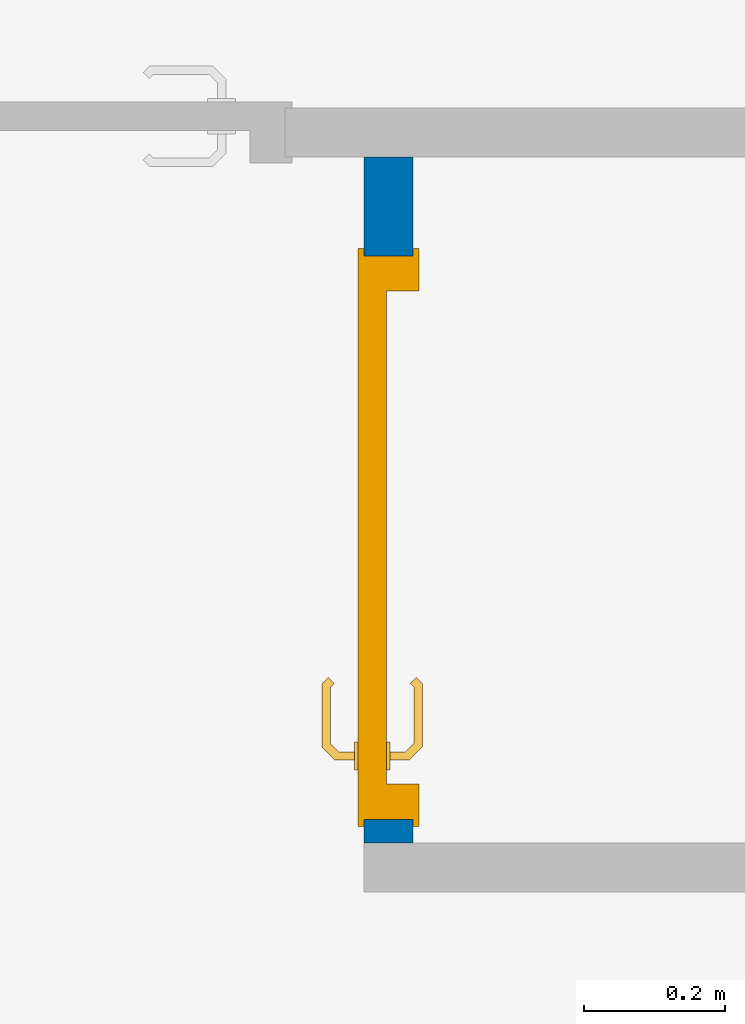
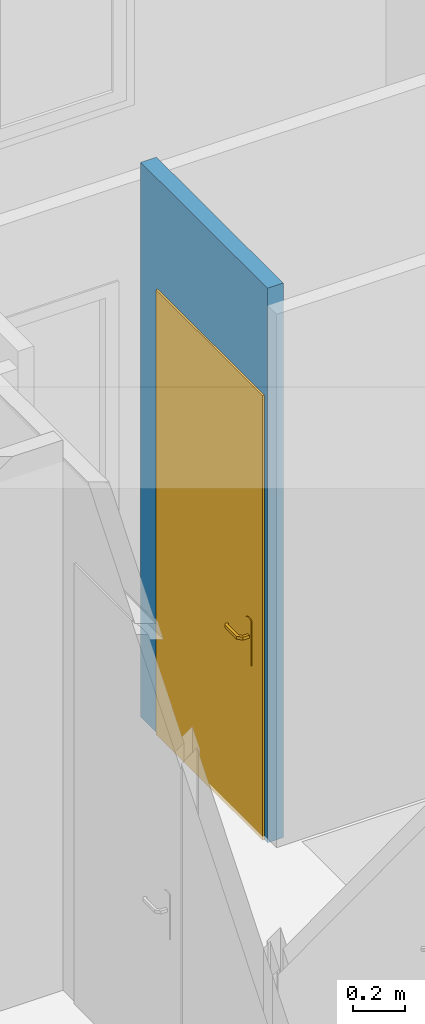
# One storey, part 32 of 50: 1 door, 1 wall, 1 opening.
"""IFC2X3 building model written with IfcOpenShell, lengths in metres."""

from ifc_helpers import new_model, entity, si_unit, converted_unit, derived_unit, direction, frame, frame_2d, origin, place, context, subcontext, project, spatial, rectangle, extrude, faceted_brep, source, transform, mapped, material, material_list, layer, layer_set, layer_usage, type_object, type_shapes, element, fill, save


model = new_model("IFC2X3")

# Units and contexts
model_context = context("Model", 3, precision=1e-05, world=origin(), true_north=direction((6.12303176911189e-17, 1.0)))
context_of_model = context(None, 3, precision=1e-05, world=origin(), true_north=direction((6.12303176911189e-17, 1.0)))
body_context = subcontext(model_context, "Body", "Model", "MODEL_VIEW")
ifc_project = project(units=[si_unit("LENGTHUNIT", "METRE"), si_unit("AREAUNIT", "SQUARE_METRE"), si_unit("VOLUMEUNIT", "CUBIC_METRE"), converted_unit("PLANEANGLEUNIT", "DEGREE", entity("IfcRatioMeasure", 0.0174532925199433), si_unit("PLANEANGLEUNIT", "RADIAN"), dimensions=[0, 0, 0, 0, 0, 0, 0]), si_unit("MASSUNIT", "GRAM", prefix="KILO"), si_unit("TIMEUNIT", "SECOND"), si_unit("FREQUENCYUNIT", "HERTZ"), si_unit("THERMODYNAMICTEMPERATUREUNIT", "DEGREE_CELSIUS"), derived_unit("THERMALTRANSMITTANCEUNIT", [(si_unit("MASSUNIT", "GRAM", prefix="KILO"), 1), (si_unit("THERMODYNAMICTEMPERATUREUNIT", "KELVIN"), -1), (si_unit("TIMEUNIT", "SECOND"), -3)]), derived_unit("VOLUMETRICFLOWRATEUNIT", [(si_unit("LENGTHUNIT", "METRE"), 3), (si_unit("TIMEUNIT", "SECOND"), -1)]), si_unit("ELECTRICCURRENTUNIT", "AMPERE"), si_unit("ELECTRICVOLTAGEUNIT", "VOLT"), si_unit("POWERUNIT", "WATT"), si_unit("FORCEUNIT", "NEWTON", prefix="KILO"), si_unit("ILLUMINANCEUNIT", "LUX"), si_unit("LUMINOUSFLUXUNIT", "LUMEN"), si_unit("LUMINOUSINTENSITYUNIT", "CANDELA"), si_unit("PRESSUREUNIT", "PASCAL")], contexts=[model_context, context_of_model])

# Site, building, storey
site_placement = place(None, origin())
site = spatial("IfcSite", under=ifc_project, at=site_placement, Name="Surface", CompositionType="ELEMENT")
building_placement = place(site_placement, origin())
building = spatial("IfcBuilding", under=site, at=building_placement, CompositionType="ELEMENT")
storey_placement = place(building_placement, frame((0.0, 0.0, 2.82)))
storey = spatial("IfcBuildingStorey", under=building, at=storey_placement, Name="ETAGE", CompositionType="ELEMENT", Elevation=2.82)

# Wall, opening, door
ifc_material_1 = material(Name="Peinture - Blanc")
ifc_layer = layer(ifc_material_1, 0.07)
ifc_layer_set = layer_set([ifc_layer], Name="Mur de base:Int.  Platre 70 mm en blanc")
ifc_layer_usage = layer_usage(ifc_layer_set, "AXIS2", "POSITIVE", -0.035)
wall_type = type_object("IfcWallType", Name="Mur de base:Int.  Platre 70 mm en blanc", PredefinedType="STANDARD", material=ifc_layer_set)
wall_placement = place(storey_placement, frame((80.9843531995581, 88.5842045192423, 0.0), z_axis=(0.0, 0.0, 1.0), x_axis=(0.0, 1.0, 0.0)))
wall = element("IfcWallStandardCase", 1, at=wall_placement, inside=storey, type_object=wall_type, material=ifc_layer_usage, Name="Mur de base:Int.  Platre 70 mm en blanc", ObjectType="Mur de base:Int.  Platre 70 mm en blanc", context=body_context, shape_type="SweptSolid", body=[
    extrude(rectangle(XDim=0.973319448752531, YDim=0.0699999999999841, at=frame_2d((0.486659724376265, 0.0), x_axis=(-1.0, 0.0))), origin(), (0.0, 0.0, 1.0), 2.6),
])
opening_placement = place(wall_placement, frame((0.0333194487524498, -0.035, 0.0)))
opening = element("IfcOpeningElement", 2, at=opening_placement, cuts=wall, Name="FR_Simple (R):73 x 204 - (70):1", ObjectType="Opening", context=body_context, shape_type="SweptSolid", body=[
    extrude(rectangle(XDim=2.075, YDim=0.799999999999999, at=frame_2d((1.0375, 0.4), x_axis=(1.0, 0.0))), frame((0.0, 0.0, 0.0), z_axis=(0.0, 1.0, 0.0), x_axis=(0.0, 0.0, 1.0)), (0.0, 0.0, 1.0), 0.07),
])
ifc_material_2 = material(Name="Poignée Porte")
ifc_material_3 = material(Name="Dormants Portes")
ifc_material_4 = material(Name="Panneaux Portes")
ifc_material_list_1 = material_list([ifc_material_2, ifc_material_3, ifc_material_4])
ifc_material_list_2 = material_list([ifc_material_2, ifc_material_3, ifc_material_4])
door_style = type_object("IfcDoorStyle", Name="73 x 204 - (70)", ConstructionType="NOTDEFINED", OperationType="SINGLE_SWING_RIGHT", ParameterTakesPrecedence=False, Sizeable=False, material=ifc_material_list_2)
shared_shape = source(origin(), body_context, "Body", "Brep", [
    faceted_brep([(0.710000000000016, -0.0130000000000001, 0.764641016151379), (0.720352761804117, -0.0130000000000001, 0.766003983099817), (0.730000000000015, -0.0130000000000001, 0.770000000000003), (0.730000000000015, -0.0130000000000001, 0.980000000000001), (0.720352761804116, -0.0130000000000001, 0.983996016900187), (0.710000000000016, -0.0130000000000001, 0.985358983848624), (0.699647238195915, -0.0130000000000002, 0.983996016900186), (0.690000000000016, -0.0130000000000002, 0.980000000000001), (0.690000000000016, -0.0130000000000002, 0.770000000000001), (0.699647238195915, -0.0130000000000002, 0.766003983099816), (0.730000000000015, -0.00800000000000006, 0.980000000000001), (0.730000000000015, -0.00800000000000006, 0.770000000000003), (0.720352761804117, -0.00800000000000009, 0.766003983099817), (0.710000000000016, -0.00800000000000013, 0.764641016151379), (0.699647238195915, -0.00800000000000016, 0.766003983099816), (0.690000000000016, -0.00800000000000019, 0.770000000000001), (0.690000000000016, -0.00800000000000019, 0.980000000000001), (0.699647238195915, -0.00800000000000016, 0.983996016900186), (0.710000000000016, -0.00800000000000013, 0.985358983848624), (0.720352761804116, -0.00800000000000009, 0.983996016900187)], [[[0, 1, 2, 3, 4, 5, 6, 7, 8, 9]], [[10, 11, 12, 13, 14, 15, 16, 17, 18, 19]], [[1, 12, 11, 2]], [[0, 13, 12, 1]], [[9, 14, 13, 0]], [[9, 8, 15, 14]], [[15, 8, 7, 16]], [[6, 17, 16, 7]], [[5, 18, 17, 6]], [[4, 19, 18, 5]], [[4, 3, 10, 19]], [[10, 3, 2, 11]]]),
    faceted_brep([(0.730000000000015, 0.0319999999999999, 0.770000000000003), (0.730000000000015, 0.0319999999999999, 0.980000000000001), (0.720352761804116, 0.0319999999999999, 0.983996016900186), (0.710000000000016, 0.0319999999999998, 0.985358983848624), (0.699647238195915, 0.0319999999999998, 0.983996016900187), (0.690000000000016, 0.0319999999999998, 0.980000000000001), (0.690000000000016, 0.0319999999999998, 0.770000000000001), (0.699647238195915, 0.0319999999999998, 0.766003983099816), (0.710000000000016, 0.0319999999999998, 0.764641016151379), (0.720352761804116, 0.0319999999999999, 0.766003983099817), (0.710000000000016, 0.0369999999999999, 0.985358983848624), (0.720352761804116, 0.0369999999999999, 0.983996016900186), (0.730000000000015, 0.0369999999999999, 0.980000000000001), (0.730000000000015, 0.0369999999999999, 0.770000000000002), (0.720352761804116, 0.0369999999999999, 0.766003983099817), (0.710000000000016, 0.0369999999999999, 0.764641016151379), (0.699647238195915, 0.0369999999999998, 0.766003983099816), (0.690000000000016, 0.0369999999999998, 0.770000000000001), (0.690000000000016, 0.0369999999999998, 0.980000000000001), (0.699647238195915, 0.0369999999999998, 0.983996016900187)], [[[0, 1, 2, 3, 4, 5, 6, 7, 8, 9]], [[10, 11, 12, 13, 14, 15, 16, 17, 18, 19]], [[4, 19, 18, 5]], [[3, 10, 19, 4]], [[2, 11, 10, 3]], [[2, 1, 12, 11]], [[12, 1, 0, 13]], [[9, 14, 13, 0]], [[8, 15, 14, 9]], [[7, 16, 15, 8]], [[7, 6, 17, 16]], [[17, 6, 5, 18]]]),
    faceted_brep([(0.707974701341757, -0.0130000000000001, 0.907780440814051), (0.712025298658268, -0.0130000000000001, 0.907780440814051), (0.716000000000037, -0.0130000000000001, 0.906999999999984), (0.716000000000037, -0.0130000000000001, 0.892999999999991), (0.712025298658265, -0.0130000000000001, 0.892219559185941), (0.707974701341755, -0.0130000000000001, 0.89221955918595), (0.703999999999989, -0.0130000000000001, 0.893000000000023), (0.703999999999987, -0.0130000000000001, 0.90699999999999), (0.712025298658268, -0.0390045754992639, 0.907780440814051), (0.716000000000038, -0.0406509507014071, 0.906999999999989), (0.707974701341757, -0.0373267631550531, 0.907780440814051), (0.694298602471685, -0.0510028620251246, 0.907780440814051), (0.695976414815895, -0.0550534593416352, 0.907780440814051), (0.609142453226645, -0.0550534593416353, 0.90778044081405), (0.610820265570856, -0.0510028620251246, 0.90778044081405), (0.604342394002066, -0.0445249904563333, 0.90778044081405), (0.601478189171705, -0.0473891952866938, 0.90778044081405), (0.703999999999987, -0.0356803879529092, 0.90699999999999), (0.703999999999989, -0.0356803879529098, 0.893000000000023), (0.707974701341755, -0.0373267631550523, 0.89221955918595), (0.712025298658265, -0.0390045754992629, 0.89221955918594), (0.695976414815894, -0.0550534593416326, 0.89221955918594), (0.694298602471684, -0.0510028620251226, 0.89221955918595), (0.610820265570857, -0.0510028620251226, 0.89221955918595), (0.609142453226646, -0.0550534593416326, 0.89221955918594), (0.601478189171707, -0.0473891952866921, 0.89221955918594), (0.604342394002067, -0.044524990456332, 0.89221955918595), (0.716000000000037, -0.0406509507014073, 0.892999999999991), (0.69762279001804, -0.059028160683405, 0.906999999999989), (0.692652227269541, -0.0470281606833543, 0.90699999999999), (0.692652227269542, -0.0470281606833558, 0.893000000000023), (0.697622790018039, -0.0590281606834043, 0.892999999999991), (0.65255943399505, -0.053182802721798, 0.907878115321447), (0.657692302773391, -0.0590281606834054, 0.906999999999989), (0.607496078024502, -0.0590281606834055, 0.906999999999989), (0.652559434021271, -0.0470281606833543, 0.90699999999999), (0.612466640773, -0.0470281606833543, 0.906999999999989), (0.652559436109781, -0.0470281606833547, 0.893000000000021), (0.612466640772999, -0.0470281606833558, 0.893000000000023), (0.652559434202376, -0.0531828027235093, 0.892121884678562), (0.647426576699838, -0.0590281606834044, 0.892999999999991), (0.607496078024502, -0.0590281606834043, 0.892999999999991), (0.607152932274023, -0.0417144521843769, 0.89300000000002), (0.598667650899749, -0.0501997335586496, 0.892999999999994), (0.598667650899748, -0.0501997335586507, 0.906999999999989), (0.607152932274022, -0.0417144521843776, 0.906999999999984)], [[[0, 1, 2, 3, 4, 5, 6, 7]], [[2, 1, 8, 9]], [[1, 0, 10, 11, 12, 8]], [[13, 14, 15, 16]], [[0, 7, 17, 10]], [[18, 17, 7, 6]], [[5, 19, 18, 6]], [[5, 4, 20, 21, 22, 19]], [[23, 24, 25, 26]], [[3, 27, 20, 4]], [[9, 27, 3, 2]], [[9, 8, 12, 28]], [[10, 17, 29, 11]], [[30, 29, 17, 18]], [[18, 19, 22, 30]], [[20, 27, 31, 21]], [[28, 31, 27, 9]], [[12, 32, 33]], [[13, 33, 32]], [[33, 28, 12]], [[33, 13, 34]], [[11, 35, 32]], [[32, 12, 11]], [[32, 35, 14]], [[35, 11, 29]], [[36, 14, 35]], [[13, 32, 14]], [[30, 37, 38, 36, 35, 29]], [[39, 37, 22]], [[40, 41, 24]], [[40, 21, 31]], [[39, 21, 40]], [[23, 37, 39]], [[39, 24, 23]], [[30, 22, 37]], [[37, 23, 38]], [[21, 39, 22]], [[24, 39, 40]], [[31, 28, 33, 34, 41, 40]], [[42, 26, 25, 43, 44, 16, 15, 45]], [[13, 16, 44, 34]], [[36, 45, 15, 14]], [[42, 45, 36, 38]], [[38, 23, 26, 42]], [[24, 41, 43, 25]], [[44, 43, 41, 34]]]),
    faceted_brep([(0.712025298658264, 0.0369999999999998, 0.907780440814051), (0.707974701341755, 0.0369999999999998, 0.907780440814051), (0.703999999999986, 0.0369999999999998, 0.90699999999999), (0.703999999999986, 0.0369999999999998, 0.89300000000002), (0.707974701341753, 0.0369999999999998, 0.892219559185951), (0.712025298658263, 0.0369999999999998, 0.892219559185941), (0.716000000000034, 0.0369999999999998, 0.892999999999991), (0.716000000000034, 0.0369999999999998, 0.90699999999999), (0.703999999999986, 0.0594852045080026, 0.90699999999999), (0.703999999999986, 0.0594852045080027, 0.89300000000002), (0.707974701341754, 0.0611315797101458, 0.907780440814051), (0.712025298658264, 0.0628093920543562, 0.907780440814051), (0.695838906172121, 0.0789957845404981, 0.907780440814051), (0.69416109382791, 0.0749451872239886, 0.907780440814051), (0.610793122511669, 0.0749451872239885, 0.907780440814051), (0.609115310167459, 0.0789957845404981, 0.907780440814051), (0.601451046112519, 0.071331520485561, 0.907780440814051), (0.604315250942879, 0.0684673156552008, 0.907780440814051), (0.716000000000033, 0.0644557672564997, 0.90699999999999), (0.716000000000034, 0.0644557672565, 0.892999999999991), (0.712025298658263, 0.0628093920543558, 0.892219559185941), (0.707974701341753, 0.0611315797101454, 0.892219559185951), (0.69416109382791, 0.0749451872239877, 0.892219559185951), (0.69583890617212, 0.0789957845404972, 0.892219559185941), (0.609115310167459, 0.0789957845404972, 0.89221955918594), (0.610793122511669, 0.0749451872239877, 0.89221955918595), (0.60431525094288, 0.0684673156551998, 0.89221955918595), (0.60145104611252, 0.07133152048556, 0.89221955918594), (0.692514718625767, 0.07097048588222, 0.89300000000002), (0.692514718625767, 0.0709704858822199, 0.90699999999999), (0.697485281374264, 0.0829704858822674, 0.90699999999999), (0.697485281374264, 0.082970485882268, 0.892999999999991), (0.652477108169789, 0.0709704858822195, 0.90699999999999), (0.612439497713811, 0.0709704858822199, 0.90699999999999), (0.612439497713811, 0.0709704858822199, 0.89300000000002), (0.652477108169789, 0.0709704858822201, 0.89300000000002), (0.652477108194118, 0.0771249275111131, 0.907878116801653), (0.647399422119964, 0.0829704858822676, 0.90699999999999), (0.607468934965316, 0.0829704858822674, 0.90699999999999), (0.657554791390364, 0.0829704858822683, 0.892999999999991), (0.607468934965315, 0.082970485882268, 0.892999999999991), (0.65247710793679, 0.0771249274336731, 0.892121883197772), (0.598640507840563, 0.0741420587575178, 0.90699999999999), (0.598640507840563, 0.074142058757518, 0.892999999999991), (0.607125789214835, 0.0656567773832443, 0.89300000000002), (0.607125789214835, 0.0656567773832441, 0.90699999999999)], [[[0, 1, 2, 3, 4, 5, 6, 7]], [[8, 9, 3, 2]], [[1, 10, 8, 2]], [[1, 0, 11, 12, 13, 10]], [[14, 15, 16, 17]], [[7, 18, 11, 0]], [[18, 7, 6, 19]], [[6, 5, 20, 19]], [[5, 4, 21, 22, 23, 20]], [[24, 25, 26, 27]], [[4, 3, 9, 21]], [[28, 9, 8, 29]], [[8, 10, 13, 29]], [[18, 30, 12, 11]], [[31, 30, 18, 19]], [[19, 20, 23, 31]], [[21, 9, 28, 22]], [[28, 29, 32, 33, 34, 35]], [[36, 32, 13]], [[37, 38, 15]], [[37, 12, 30]], [[36, 12, 37]], [[14, 32, 36]], [[36, 15, 14]], [[29, 13, 32]], [[32, 14, 33]], [[12, 36, 13]], [[15, 36, 37]], [[30, 31, 39, 40, 38, 37]], [[23, 41, 39]], [[24, 39, 41]], [[39, 31, 23]], [[39, 24, 40]], [[22, 35, 41]], [[41, 23, 22]], [[41, 35, 25]], [[35, 22, 28]], [[34, 25, 35]], [[24, 41, 25]], [[17, 16, 42, 43, 27, 26, 44, 45]], [[44, 34, 33, 45]], [[33, 14, 17, 45]], [[15, 38, 42, 16]], [[42, 38, 40, 43]], [[24, 27, 43, 40]], [[34, 44, 26, 25]]]),
    faceted_brep([(0.800000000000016, 0.0, 0.0), (0.810000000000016, 0.0, 0.0), (0.810000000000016, -0.00799999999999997, 0.0), (0.765000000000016, -0.00799999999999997, 0.0), (0.765000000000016, 0.032, 0.0), (0.750000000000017, 0.032, 0.0), (0.750000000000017, 0.0780000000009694, 0.0), (0.810000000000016, 0.0780000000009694, 0.0), (0.810000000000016, 0.0700000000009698, 0.0), (0.800000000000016, 0.0700000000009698, 0.0), (0.800000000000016, 0.0700000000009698, 2.075), (0.800000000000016, 0.0, 2.075), (0.810000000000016, 0.0700000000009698, 2.085), (-0.00999999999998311, 0.0700000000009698, 2.085), (-0.00999999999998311, 0.0700000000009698, 0.0), (0.0, 0.0700000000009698, 0.0), (0.0, 0.0700000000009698, 2.075), (0.810000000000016, 0.0780000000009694, 2.085), (0.750000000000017, 0.0780000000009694, 2.025), (0.0500000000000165, 0.0780000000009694, 2.025), (0.0500000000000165, 0.0780000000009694, 0.0), (-0.00999999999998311, 0.0780000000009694, 0.0), (-0.00999999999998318, 0.0780000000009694, 2.085), (0.750000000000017, 0.032, 2.025), (0.765000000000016, 0.032, 2.04), (0.0350000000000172, 0.032, 2.04), (0.0350000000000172, 0.032, 0.0), (0.0500000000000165, 0.032, 0.0), (0.0500000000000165, 0.032, 2.025), (0.765000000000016, -0.00799999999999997, 2.04), (0.810000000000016, -0.00799999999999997, 2.085), (-0.00999999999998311, -0.00799999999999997, 2.085), (-0.00999999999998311, -0.00799999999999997, 0.0), (0.0350000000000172, -0.00799999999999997, 0.0), (0.0350000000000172, -0.00799999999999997, 2.04), (0.810000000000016, 0.0, 2.085), (0.0, 0.0, 2.075), (0.0, 0.0, 0.0), (-0.00999999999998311, 0.0, 0.0), (-0.00999999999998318, 0.0, 2.085)], [[[0, 1, 2, 3, 4, 5, 6, 7, 8, 9]], [[9, 10, 11, 0]], [[8, 12, 13, 14, 15, 16, 10, 9]], [[7, 17, 12, 8]], [[6, 18, 19, 20, 21, 22, 17, 7]], [[5, 23, 18, 6]], [[4, 24, 25, 26, 27, 28, 23, 5]], [[3, 29, 24, 4]], [[2, 30, 31, 32, 33, 34, 29, 3]], [[1, 35, 30, 2]], [[0, 11, 36, 37, 38, 39, 35, 1]], [[10, 16, 36, 11]], [[17, 22, 13, 12]], [[23, 28, 19, 18]], [[29, 34, 25, 24]], [[35, 39, 31, 30]], [[37, 15, 14, 21, 20, 27, 26, 33, 32, 38]], [[16, 15, 37, 36]], [[22, 21, 14, 13]], [[28, 27, 20, 19]], [[34, 33, 26, 25]], [[39, 38, 32, 31]]]),
    faceted_brep([(0.765000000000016, -0.00799999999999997, 2.04), (0.0350000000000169, -0.00799999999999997, 2.04), (0.0350000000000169, -0.00799999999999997, 0.0), (0.765000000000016, -0.00799999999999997, 0.0), (0.765000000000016, 0.032, 2.04), (0.765000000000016, 0.032, 0.0), (0.0350000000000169, 0.032, 0.0), (0.0350000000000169, 0.032, 2.04)], [[[0, 1, 2, 3]], [[4, 5, 6, 7]], [[3, 5, 4, 0]], [[2, 6, 5, 3]], [[1, 7, 6, 2]], [[0, 4, 7, 1]]]),
])
type_shapes(door_style, [shared_shape])
door_placement = place(opening_placement, frame((0.800000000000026, 0.0700000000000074, 0.0), z_axis=(0.0, 0.0, 1.0), x_axis=(-1.0, 0.0, 0.0)))
door = element("IfcDoor", 3, at=door_placement, inside=storey, type_object=door_style, material=ifc_material_list_1, Name="FR_Simple (R):73 x 204 - (70)", ObjectType="73 x 204 - (70)", OverallHeight=2.075, OverallWidth=0.800000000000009, context=body_context, shape_type="MappedRepresentation", body=[
    mapped(shared_shape, transform((0.0, 0.0, 0.0), scale=1.0)),
])
fill(opening, door)

save(model, "model.ifc")
